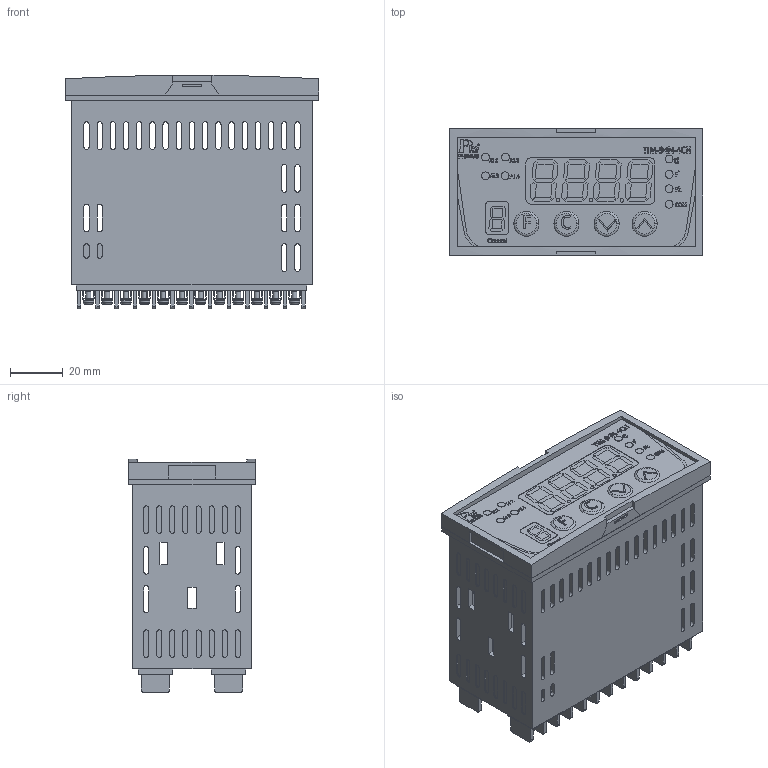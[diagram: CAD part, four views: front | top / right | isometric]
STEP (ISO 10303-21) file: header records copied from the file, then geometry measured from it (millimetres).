
FILE_DESCRIPTION (( 'STEP AP214' ), '1' );
FILE_NAME ('TIM-94N-4CH.STEP', '2026-05-13T06:54:03', ( '' ), ( '' ), 'SwSTEP 2.0', 'SolidWorks 2022', '' );
FILE_SCHEMA (( 'AUTOMOTIVE_DESIGN' ));
Length unit declared in the file: millimetre
Products named in the file (1): TIM-94N-4CH
Bounding box: 96.15 x 48 x 88.5 mm (x, y, z)
Volume: 74450.5 mm3; surface area: 75628.5 mm2
Topology: 39 solids, 39 shells, 3378 faces, 8848 edges, 5802 vertices
Faces by surface type: plane 2193, cylinder 816, bspline 148, cone 111, torus 110
Entity records: 114924 total; most frequent: CARTESIAN_POINT 25751, ORIENTED_EDGE 17684, DIRECTION 16928, EDGE_CURVE 8842, LINE 6496, VECTOR 6496, VERTEX_POINT 5802, AXIS2_PLACEMENT_3D 5216
